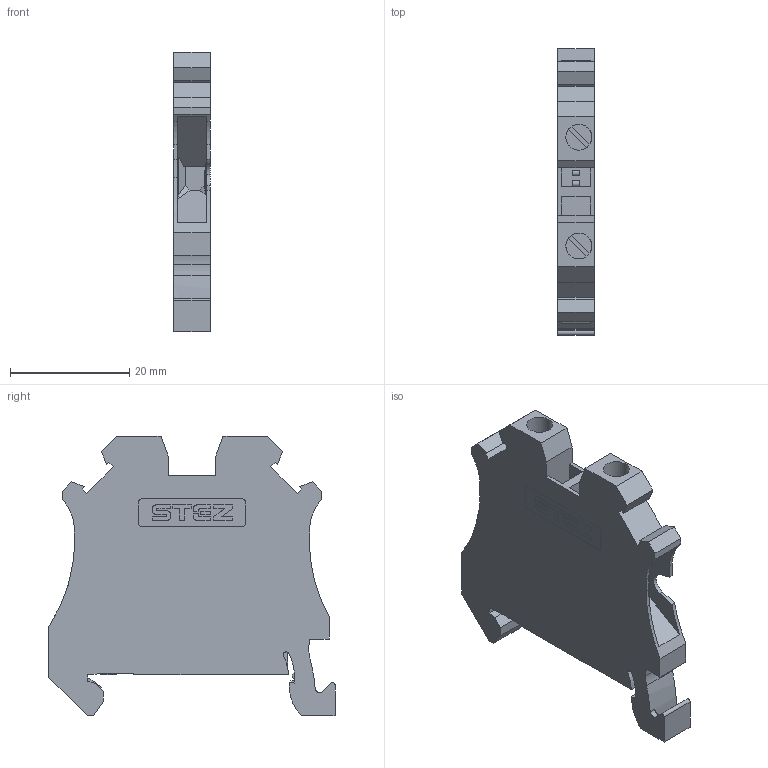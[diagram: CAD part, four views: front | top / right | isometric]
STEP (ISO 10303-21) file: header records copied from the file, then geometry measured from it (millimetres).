
FILE_DESCRIPTION(('TFLEX Exchange Step'),'2;1');
FILE_NAME('11000012_KHB_4-2-PE.stp', '2023-10-03T09:17:32+03:00',('apanin'),('Unknown organisation'),'TFLEX Exchange 2023.0','T-FLEX CAD','Unknown authorisation');
FILE_SCHEMA( ('AUTOMOTIVE_DESIGN { 1 0 10303 214 1 1 1 1 }') );
Length unit declared in the file: millimetre
Products named in the file (1): Тело_1:1
Bounding box: 6.15 x 48 x 46.85 mm (x, y, z)
Volume: 8341.1 mm3; surface area: 5782.3 mm2
Topology: 1 solids, 1 shells, 411 faces, 1194 edges, 794 vertices
Faces by surface type: plane 208, cylinder 203
Full cylindrical faces by diameter (mm): 4.35 x2
Entity records: 13772 total; most frequent: CARTESIAN_POINT 2458, DIRECTION 2393, ORIENTED_EDGE 2388, EDGE_CURVE 1194, AXIS2_PLACEMENT_3D 833, VERTEX_POINT 794, VECTOR 727, LINE 727
